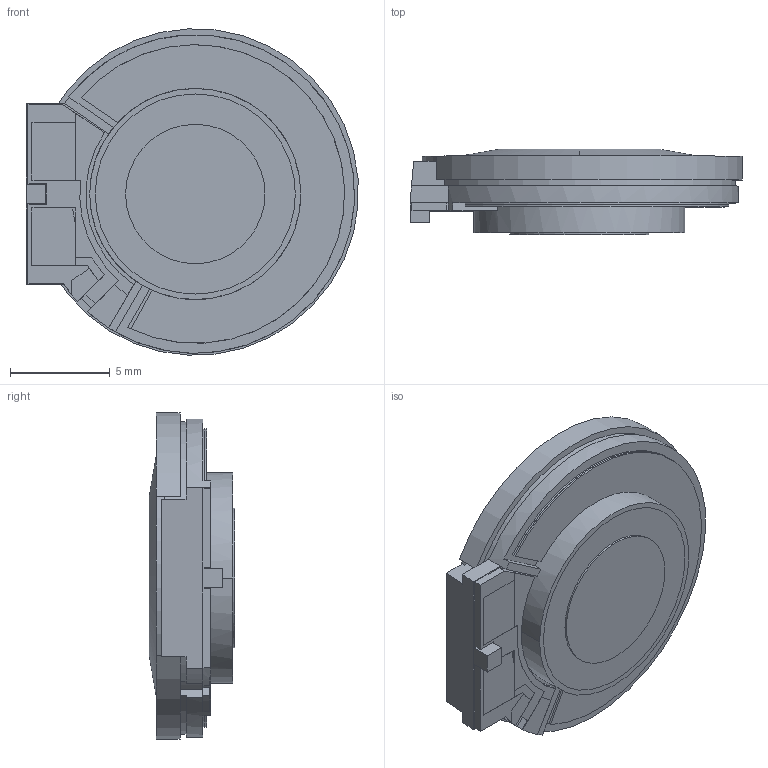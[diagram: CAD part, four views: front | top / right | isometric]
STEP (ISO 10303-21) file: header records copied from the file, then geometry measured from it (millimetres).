
FILE_DESCRIPTION((''),'2;1');
FILE_NAME('SPEAKER-AAC_PRT','2008-06-30T',('GRA'),(''),'PRO/ENGINEER BY PARAMETRIC TECHNOLOGY CORPORATION, 2006170','PRO/ENGINEER BY PARAMETRIC TECHNOLOGY CORPORATION, 2006170','');
FILE_SCHEMA(('CONFIG_CONTROL_DESIGN'));
Length unit declared in the file: millimetre
Products named in the file (1): SPEAKER-AAC_PRT
Bounding box: 16.67 x 4.3 x 16.39 mm (x, y, z)
Volume: 317.9 mm3; surface area: 1717.1 mm2
Topology: 13 solids, 13 shells, 197 faces, 501 edges, 331 vertices
Faces by surface type: plane 115, cylinder 78, cone 4
Entity records: 6033 total; most frequent: DIRECTION 1075, CARTESIAN_POINT 1029, ORIENTED_EDGE 1002, EDGE_CURVE 501, AXIS2_PLACEMENT_3D 377, VERTEX_POINT 331, VECTOR 321, LINE 321
